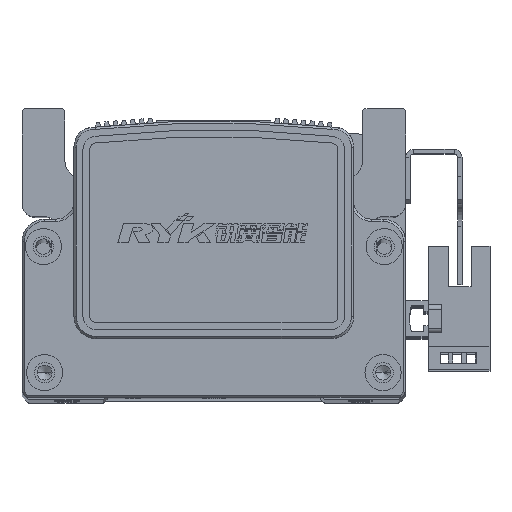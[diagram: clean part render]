
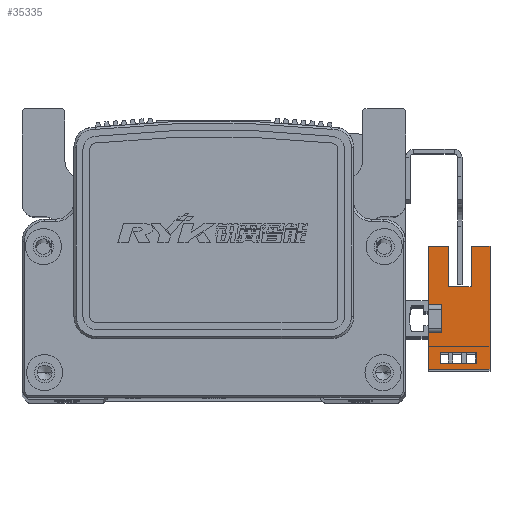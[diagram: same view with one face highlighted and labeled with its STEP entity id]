
A CAD part, top view. The second image highlights one B-rep face of the part: STEP entity #35335.
In plain terms, the highlighted planar face has unit normal (0, 0, 1) as drawn and (1, 0, 0) by its records, which use the part's own axes.
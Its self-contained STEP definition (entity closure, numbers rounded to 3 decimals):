
#1827 = VERTEX_POINT ( 'NONE', #7065 ) ;
#1829 = VERTEX_POINT ( 'NONE', #7029 ) ;
#1837 = VERTEX_POINT ( 'NONE', #7086 ) ;
#1853 = VERTEX_POINT ( 'NONE', #7056 ) ;
#1874 = VERTEX_POINT ( 'NONE', #7035 ) ;
#1882 = VERTEX_POINT ( 'NONE', #7194 ) ;
#1891 = VERTEX_POINT ( 'NONE', #7190 ) ;
#1892 = VERTEX_POINT ( 'NONE', #7192 ) ;
#1905 = VERTEX_POINT ( 'NONE', #7205 ) ;
#1914 = VERTEX_POINT ( 'NONE', #7271 ) ;
#1928 = VERTEX_POINT ( 'NONE', #7292 ) ;
#1943 = VERTEX_POINT ( 'NONE', #7336 ) ;
#7029 = CARTESIAN_POINT ( 'NONE',  ( 3.2, -9.83, 0.3 ) ) ;
#7035 = CARTESIAN_POINT ( 'NONE',  ( 3.2, 16.1, -6.5 ) ) ;
#7056 = CARTESIAN_POINT ( 'NONE',  ( 3.2, -3.1, 3. ) ) ;
#7065 = CARTESIAN_POINT ( 'NONE',  ( 3.2, 16.1, -10.7 ) ) ;
#7086 = CARTESIAN_POINT ( 'NONE',  ( 3.2, -7.33, 0.3 ) ) ;
#7190 = CARTESIAN_POINT ( 'NONE',  ( 3.2, 7.1, -6.5 ) ) ;
#7192 = CARTESIAN_POINT ( 'NONE',  ( 3.2, -3.1, 0. ) ) ;
#7194 = CARTESIAN_POINT ( 'NONE',  ( 3.2, -11.1, 3. ) ) ;
#7205 = CARTESIAN_POINT ( 'NONE',  ( 3.2, 3.1, 3. ) ) ;
#7271 = CARTESIAN_POINT ( 'NONE',  ( 3.2, -11.1, -10.7 ) ) ;
#7292 = CARTESIAN_POINT ( 'NONE',  ( 3.2, 3.1, 0. ) ) ;
#7336 = CARTESIAN_POINT ( 'NONE',  ( 3.2, 16.1, 3. ) ) ;
#8143 = VERTEX_POINT ( 'NONE', #10696 ) ;
#8163 = VERTEX_POINT ( 'NONE', #10683 ) ;
#8189 = VERTEX_POINT ( 'NONE', #10739 ) ;
#8539 = VERTEX_POINT ( 'NONE', #11064 ) ;
#9007 = AXIS2_PLACEMENT_3D ( 'NONE', #18953, #18920, #18921 ) ;
#10683 = CARTESIAN_POINT ( 'NONE',  ( 3.2, 7.1, -1.5 ) ) ;
#10696 = CARTESIAN_POINT ( 'NONE',  ( 3.2, 16.1, -1.5 ) ) ;
#10739 = CARTESIAN_POINT ( 'NONE',  ( 3.2, -9.83, -7.7 ) ) ;
#11064 = CARTESIAN_POINT ( 'NONE',  ( 3.2, -7.33, -7.7 ) ) ;
#14270 = VECTOR ( 'NONE', #18231, 1000. ) ;
#14284 = LINE ( 'NONE', #18236, #14270 ) ;
#14332 = LINE ( 'NONE', #18255, #14346 ) ;
#14346 = VECTOR ( 'NONE', #18274, 1000. ) ;
#14358 = VECTOR ( 'NONE', #18411, 1000. ) ;
#14361 = LINE ( 'NONE', #18410, #14358 ) ;
#14373 = LINE ( 'NONE', #18359, #14390 ) ;
#14390 = VECTOR ( 'NONE', #18376, 1000. ) ;
#14516 = LINE ( 'NONE', #18441, #14521 ) ;
#14521 = VECTOR ( 'NONE', #18459, 1000. ) ;
#14580 = VECTOR ( 'NONE', #23807, 1000. ) ;
#14639 = LINE ( 'NONE', #18491, #14580 ) ;
#15569 = FACE_OUTER_BOUND ( 'NONE', #25332, .T. ) ;
#15639 = FACE_BOUND ( 'NONE', #25298, .T. ) ;
#18231 = DIRECTION ( 'NONE',  ( 0., 0., 1. ) ) ;
#18236 = CARTESIAN_POINT ( 'NONE',  ( 3.2, 16.1, -10.7 ) ) ;
#18255 = CARTESIAN_POINT ( 'NONE',  ( 3.2, 16.1, 3. ) ) ;
#18274 = DIRECTION ( 'NONE',  ( 0., 1., 0. ) ) ;
#18359 = CARTESIAN_POINT ( 'NONE',  ( 3.2, 0., 0. ) ) ;
#18376 = DIRECTION ( 'NONE',  ( 0., 1., 0. ) ) ;
#18410 = CARTESIAN_POINT ( 'NONE',  ( 3.2, 16.1, 3. ) ) ;
#18411 = DIRECTION ( 'NONE',  ( 0., 1., 0. ) ) ;
#18441 = CARTESIAN_POINT ( 'NONE',  ( 3.2, -3.1, 3. ) ) ;
#18459 = DIRECTION ( 'NONE',  ( 0., 0., -1. ) ) ;
#18491 = CARTESIAN_POINT ( 'NONE',  ( 3.2, 3.1, 3. ) ) ;
#18918 = PLANE ( 'NONE',  #9007 ) ;
#18920 = DIRECTION ( 'NONE',  ( 1., 0., 0. ) ) ;
#18921 = DIRECTION ( 'NONE',  ( 0., 1., 0. ) ) ;
#18953 = CARTESIAN_POINT ( 'NONE',  ( 3.2, 16.1, -10.7 ) ) ;
#23807 = DIRECTION ( 'NONE',  ( 0., 0., 1. ) ) ;
#25298 = EDGE_LOOP ( 'NONE', ( #32770, #32980, #32932, #32996 ) ) ;
#25332 = EDGE_LOOP ( 'NONE', ( #32820, #32852, #32844, #32782, #32938, #32802, #32794, #32758, #32786, #32838, #32846, #32880 ) ) ;
#25785 = DIRECTION ( 'NONE',  ( 0., -1., 0. ) ) ;
#25791 = CARTESIAN_POINT ( 'NONE',  ( 3.2, 25.1, -1.5 ) ) ;
#25792 = DIRECTION ( 'NONE',  ( 0., 1., 0. ) ) ;
#25799 = DIRECTION ( 'NONE',  ( 0., -1., 0. ) ) ;
#25802 = CARTESIAN_POINT ( 'NONE',  ( 3.2, 16.1, 0.3 ) ) ;
#25806 = CARTESIAN_POINT ( 'NONE',  ( 3.2, 25.1, -6.5 ) ) ;
#25830 = CARTESIAN_POINT ( 'NONE',  ( 3.2, -9.83, -10.7 ) ) ;
#25838 = DIRECTION ( 'NONE',  ( 0., 1., 0. ) ) ;
#25839 = DIRECTION ( 'NONE',  ( 0., 0., -1. ) ) ;
#25853 = CARTESIAN_POINT ( 'NONE',  ( 3.2, 16.1, -10.7 ) ) ;
#25857 = CARTESIAN_POINT ( 'NONE',  ( 3.2, -11.1, 3. ) ) ;
#25859 = CARTESIAN_POINT ( 'NONE',  ( 3.2, 16.1, -10.7 ) ) ;
#25860 = DIRECTION ( 'NONE',  ( 0., 0., 1. ) ) ;
#25863 = DIRECTION ( 'NONE',  ( 0., 0., 1. ) ) ;
#25866 = CARTESIAN_POINT ( 'NONE',  ( 3.2, 7.1, -6.5 ) ) ;
#25868 = CARTESIAN_POINT ( 'NONE',  ( 3.2, 16.1, -7.7 ) ) ;
#25873 = DIRECTION ( 'NONE',  ( 0., 1., 0. ) ) ;
#25896 = DIRECTION ( 'NONE',  ( 0., 0., 1. ) ) ;
#31193 = CARTESIAN_POINT ( 'NONE',  ( 3.2, -7.33, -10.7 ) ) ;
#31236 = DIRECTION ( 'NONE',  ( 0., 0., 1. ) ) ;
#32758 = ORIENTED_EDGE ( 'NONE', *, *, #37595, .F. ) ;
#32770 = ORIENTED_EDGE ( 'NONE', *, *, #39306, .F. ) ;
#32782 = ORIENTED_EDGE ( 'NONE', *, *, #39354, .T. ) ;
#32786 = ORIENTED_EDGE ( 'NONE', *, *, #37576, .F. ) ;
#32794 = ORIENTED_EDGE ( 'NONE', *, *, #37572, .F. ) ;
#32802 = ORIENTED_EDGE ( 'NONE', *, *, #37633, .F. ) ;
#32820 = ORIENTED_EDGE ( 'NONE', *, *, #39310, .T. ) ;
#32838 = ORIENTED_EDGE ( 'NONE', *, *, #39358, .F. ) ;
#32844 = ORIENTED_EDGE ( 'NONE', *, *, #39319, .T. ) ;
#32846 = ORIENTED_EDGE ( 'NONE', *, *, #39329, .T. ) ;
#32852 = ORIENTED_EDGE ( 'NONE', *, *, #39346, .T. ) ;
#32880 = ORIENTED_EDGE ( 'NONE', *, *, #37513, .T. ) ;
#32932 = ORIENTED_EDGE ( 'NONE', *, *, #39345, .F. ) ;
#32938 = ORIENTED_EDGE ( 'NONE', *, *, #37534, .F. ) ;
#32980 = ORIENTED_EDGE ( 'NONE', *, *, #39253, .F. ) ;
#32996 = ORIENTED_EDGE ( 'NONE', *, *, #39332, .F. ) ;
#35335 = ADVANCED_FACE ( 'NONE', ( #15569, #15639 ), #18918, .T. ) ;
#37513 = EDGE_CURVE ( 'NONE', #1827, #1874, #14284, .T. ) ;
#37534 = EDGE_CURVE ( 'NONE', #1905, #1943, #14332, .T. ) ;
#37572 = EDGE_CURVE ( 'NONE', #1892, #1928, #14373, .T. ) ;
#37576 = EDGE_CURVE ( 'NONE', #1882, #1853, #14361, .T. ) ;
#37595 = EDGE_CURVE ( 'NONE', #1853, #1892, #14516, .T. ) ;
#37633 = EDGE_CURVE ( 'NONE', #1928, #1905, #14639, .T. ) ;
#39253 = EDGE_CURVE ( 'NONE', #8539, #1837, #41876, .T. ) ;
#39306 = EDGE_CURVE ( 'NONE', #1837, #1829, #41940, .T. ) ;
#39310 = EDGE_CURVE ( 'NONE', #1874, #1891, #41969, .T. ) ;
#39319 = EDGE_CURVE ( 'NONE', #8163, #8143, #41982, .T. ) ;
#39329 = EDGE_CURVE ( 'NONE', #1914, #1827, #42002, .T. ) ;
#39332 = EDGE_CURVE ( 'NONE', #1829, #8189, #42013, .T. ) ;
#39345 = EDGE_CURVE ( 'NONE', #8189, #8539, #42046, .T. ) ;
#39346 = EDGE_CURVE ( 'NONE', #1891, #8163, #42024, .T. ) ;
#39354 = EDGE_CURVE ( 'NONE', #8143, #1943, #42007, .T. ) ;
#39358 = EDGE_CURVE ( 'NONE', #1914, #1882, #42100, .T. ) ;
#41876 = LINE ( 'NONE', #31193, #41929 ) ;
#41929 = VECTOR ( 'NONE', #31236, 1000. ) ;
#41940 = LINE ( 'NONE', #25802, #41964 ) ;
#41943 = VECTOR ( 'NONE', #25799, 1000. ) ;
#41944 = VECTOR ( 'NONE', #25792, 1000. ) ;
#41964 = VECTOR ( 'NONE', #25785, 1000. ) ;
#41969 = LINE ( 'NONE', #25806, #41943 ) ;
#41982 = LINE ( 'NONE', #25791, #41944 ) ;
#42002 = LINE ( 'NONE', #25853, #42039 ) ;
#42007 = LINE ( 'NONE', #25859, #42034 ) ;
#42013 = LINE ( 'NONE', #25830, #42025 ) ;
#42024 = LINE ( 'NONE', #25866, #42031 ) ;
#42025 = VECTOR ( 'NONE', #25839, 1000. ) ;
#42031 = VECTOR ( 'NONE', #25863, 1000. ) ;
#42034 = VECTOR ( 'NONE', #25896, 1000. ) ;
#42039 = VECTOR ( 'NONE', #25838, 1000. ) ;
#42046 = LINE ( 'NONE', #25868, #42051 ) ;
#42051 = VECTOR ( 'NONE', #25873, 1000. ) ;
#42100 = LINE ( 'NONE', #25857, #42119 ) ;
#42119 = VECTOR ( 'NONE', #25860, 1000. ) ;
